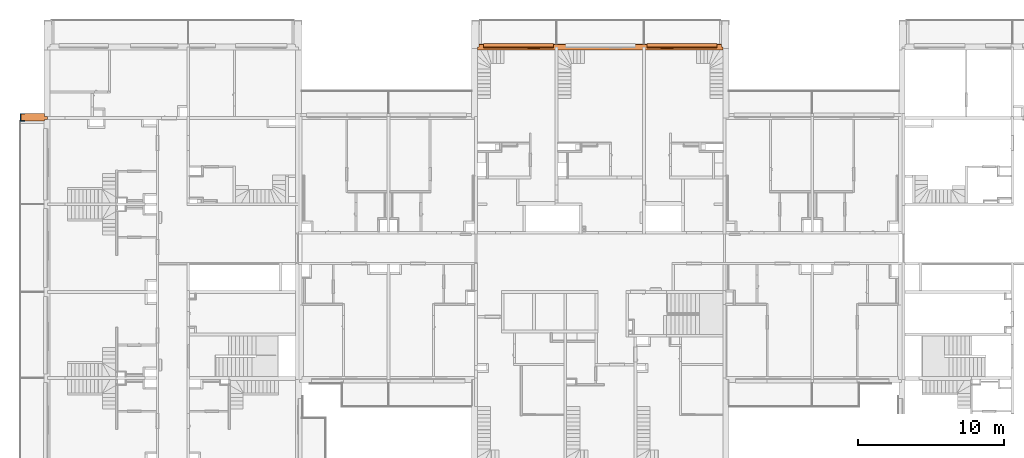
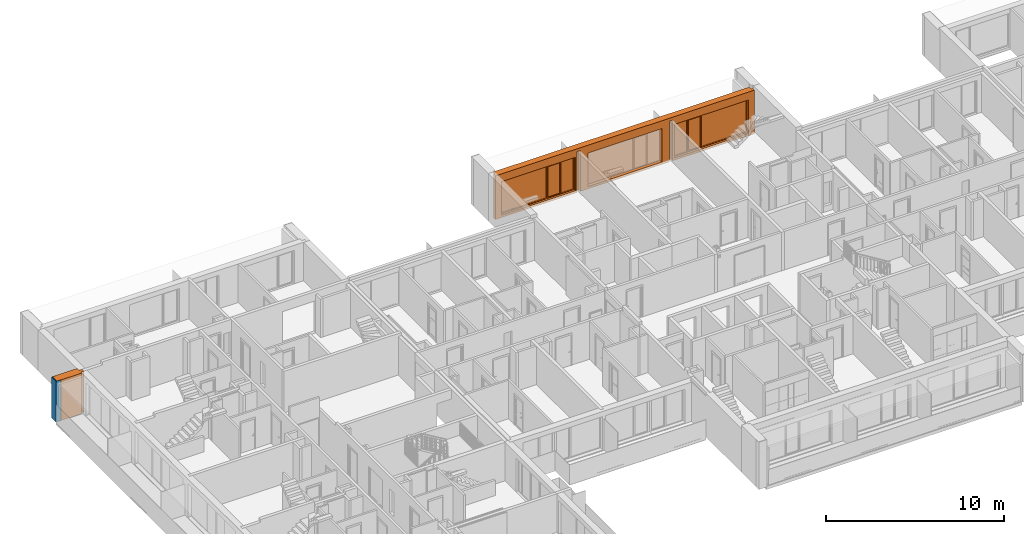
# One storey, part 43 of 61: 4 proxies, 1 wall, 4 openings.
"""IFC2X3 building model written with IfcOpenShell, lengths in millimetres."""

import ifcopenshell
import ifcopenshell.guid

model = None  # the IFC model being written
_history = None  # IfcOwnerHistory: only IFC2X3 demands one
_inside = {}  # id of a spatial element -> (the spatial element, [elements in it])
_under = {}  # id of a project, library or spatial element -> (it, [spatial elements below it])
_declared = {}  # id of a project -> (the project, [libraries it declares])
_typed = {}  # id of a type object -> (the type object, [elements of that type])
_made_of = {}  # id of a material, layer set ... -> (it, [elements and type objects made of it])


def new_model(schema):
    """Start an empty IFC model of exactly this schema.

    Asked for "IFC4X3", IfcOpenShell would pick the latest addendum, in which some entities
    have other attributes; the version numbers below select the first issue.
    IFC2X3 requires an IfcOwnerHistory on every rooted entity: one is made here for all.
    """
    global model, _history
    if schema == "IFC4X3":
        model = ifcopenshell.file(schema_version=(4, 3, 0, 0))
    else:
        model = ifcopenshell.file(schema=schema)
    _inside.clear()
    _under.clear()
    _declared.clear()
    _typed.clear()
    _made_of.clear()
    _history = None
    if model.schema == "IFC2X3":
        org = make("IfcOrganization", Name="unknown")
        user = make(
            "IfcPersonAndOrganization",
            ThePerson=make("IfcPerson", FamilyName="unknown"),
            TheOrganization=org,
        )
        app = make(
            "IfcApplication",
            ApplicationDeveloper=org,
            Version="unknown",
            ApplicationFullName="unknown",
            ApplicationIdentifier="unknown",
        )
        _history = make(
            "IfcOwnerHistory",
            OwningUser=user,
            OwningApplication=app,
            ChangeAction="ADDED",
            CreationDate=0,
        )
    return model


def make(cls, **values):
    """One entity of the class cls with the attributes given. An attribute that is None is left unset."""
    return model.create_entity(
        cls, **{name: value for name, value in values.items() if value is not None}
    )


def entity(cls, *values):
    """Any entity or typed value of the class cls, its attributes in the order of the schema. None: left unset."""
    e = model.create_entity(cls)
    for i, value in enumerate(values):
        if value is not None:
            e[i] = value
    return e


def rooted(cls, **values):
    """An entity with a GlobalId (a new one), such as an element, a storey or a relation."""
    return make(cls, GlobalId=ifcopenshell.guid.new(), OwnerHistory=_history, **values)


def si_unit(unit_type, name, prefix=None):
    """IfcSIUnit, for example si_unit("LENGTHUNIT", "METRE", prefix="MILLI")."""
    return make("IfcSIUnit", UnitType=unit_type, Prefix=prefix, Name=name)


def converted_unit(unit_type, name, factor, base, dimensions=None, offset=None):
    """IfcConversionBasedUnit, such as the inch: factor (a typed value) times the base unit."""
    return make(
        "IfcConversionBasedUnit"
        if offset is None
        else "IfcConversionBasedUnitWithOffset",
        ConversionOffset=offset,
        Dimensions=None
        if dimensions is None
        else entity("IfcDimensionalExponents", *dimensions),
        UnitType=unit_type,
        Name=name,
        ConversionFactor=make(
            "IfcMeasureWithUnit", ValueComponent=factor, UnitComponent=base
        ),
    )


def derived_unit(unit_type, elements):
    """IfcDerivedUnit: a product of units, each with its exponent."""
    return make(
        "IfcDerivedUnit",
        Elements=[
            make("IfcDerivedUnitElement", Unit=unit, Exponent=power)
            for unit, power in elements
        ],
        UnitType=unit_type,
    )


def money_unit(currency):
    """IfcMonetaryUnit."""
    return make("IfcMonetaryUnit", Currency=currency)


def assignment(units):
    """IfcUnitAssignment: the units of a project."""
    return None if units is None else make("IfcUnitAssignment", Units=units)


def point(xyz):
    """IfcCartesianPoint."""
    return None if xyz is None else make("IfcCartesianPoint", Coordinates=xyz)


def direction(xyz):
    """IfcDirection."""
    return None if xyz is None else make("IfcDirection", DirectionRatios=xyz)


def frame(location, z_axis=None, x_axis=None):
    """IfcAxis2Placement3D, a coordinate frame: its origin and axes. An axis left out is left unset."""
    return make(
        "IfcAxis2Placement3D",
        Location=point(location),
        Axis=direction(z_axis),
        RefDirection=direction(x_axis),
    )


def frame_2d(location, x_axis=None):
    """IfcAxis2Placement2D, a coordinate frame in the plane: its origin and x axis."""
    return make(
        "IfcAxis2Placement2D", Location=point(location), RefDirection=direction(x_axis)
    )


def origin_with_axes():
    """The frame at (0, 0, 0) with the z axis (0, 0, 1) and the x axis (1, 0, 0) written out."""
    return frame((0.0, 0.0, 0.0), z_axis=(0.0, 0.0, 1.0), x_axis=(1.0, 0.0, 0.0))


def origin_2d_with_axis():
    """The frame at (0, 0) in the plane with the x axis (1, 0) written out."""
    return frame_2d((0.0, 0.0), x_axis=(1.0, 0.0))


def place(relative_to, where):
    """IfcLocalPlacement: puts the frame where relative to a parent placement (None: the world)."""
    return make(
        "IfcLocalPlacement", PlacementRelTo=relative_to, RelativePlacement=where
    )


def context(
    kind, dimensions, precision=None, world=None, true_north=None, identifier=None
):
    """IfcGeometricRepresentationContext, for example the 3D "Model" context."""
    return make(
        "IfcGeometricRepresentationContext",
        ContextIdentifier=identifier,
        ContextType=kind,
        CoordinateSpaceDimension=dimensions,
        Precision=precision,
        WorldCoordinateSystem=world,
        TrueNorth=true_north,
    )


def subcontext(parent, identifier, kind, view, scale=None):
    """IfcGeometricRepresentationSubContext, for example "Body" below "Model"."""
    return make(
        "IfcGeometricRepresentationSubContext",
        ContextIdentifier=identifier,
        ContextType=kind,
        ParentContext=parent,
        TargetScale=scale,
        TargetView=view,
    )


def project(units=None, contexts=None):
    """IfcProject with its units and contexts."""
    return rooted(
        "IfcProject",
        Name="project",
        RepresentationContexts=contexts,
        UnitsInContext=assignment(units),
    )


def spatial(cls, under=None, at=None, **own):
    """A site, building, storey or space (cls), placed at a placement, below another one or the project."""
    s = rooted(cls, ObjectPlacement=at, **own)
    if under is not None:
        _under.setdefault(under.id(), (under, []))[1].append(s)
    return s


def profile(cls, at=None, kind="AREA", **sizes):
    """A parametric profile (cls). Its sizes go by their IFC names, for example OverallWidth=200.0."""
    return make(cls, ProfileType=kind, Position=at, **sizes)


def rectangle(**sizes):
    """IfcRectangleProfileDef."""
    return profile("IfcRectangleProfileDef", **sizes)


def extrude(swept, where, along, depth):
    """IfcExtrudedAreaSolid: the profile swept, set in the frame where, extruded along a direction by depth."""
    return make(
        "IfcExtrudedAreaSolid",
        SweptArea=swept,
        Position=where,
        ExtrudedDirection=direction(along),
        Depth=depth,
    )


def faces_of(points, faces, orient=None, outer=None):
    """IfcFace entities. A face is a list of loops; a loop is a list of indices into points, from 0.

    orient and outer hold one flag for each loop. By default every Orientation is true, the
    first loop of a face is its IfcFaceOuterBound and the others are IfcFaceBound.
    """
    made = []
    for i, loops in enumerate(faces):
        bounds = []
        for j, loop in enumerate(loops):
            is_outer = j == 0 if outer is None else outer[i][j]
            bounds.append(
                make(
                    "IfcFaceOuterBound" if is_outer else "IfcFaceBound",
                    Bound=make("IfcPolyLoop", Polygon=[points[k] for k in loop]),
                    Orientation=True if orient is None else orient[i][j],
                )
            )
        made.append(make("IfcFace", Bounds=bounds))
    return made


def open_shell(faces, orient=None, outer=None):
    """The faces of one IfcOpenShell. surface_model builds it on its shared points."""
    return ("IfcOpenShell", faces, orient, outer)


def faceted_brep(points, faces, orient=None, outer=None, voids=None):
    """IfcFacetedBrep: a solid bounded by flat faces; with voids (closed shells), ...WithVoids."""
    shared = [point(p) for p in points]
    hull = make("IfcClosedShell", CfsFaces=faces_of(shared, faces, orient, outer))
    if voids is None:
        return make("IfcFacetedBrep", Outer=hull)
    return make(
        "IfcFacetedBrepWithVoids",
        Outer=hull,
        Voids=[
            make(cls, CfsFaces=faces_of(shared, fs, o, b)) for cls, fs, o, b in voids
        ],
    )


def surface_model(cls, points, shells):
    """IfcFaceBasedSurfaceModel or IfcShellBasedSurfaceModel (cls): surfaces that need not close."""
    shared = [point(p) for p in points]
    made = [make(c, CfsFaces=faces_of(shared, fs, o, b)) for c, fs, o, b in shells]
    if cls == "IfcFaceBasedSurfaceModel":
        return make(cls, FbsmFaces=made)
    return make(cls, SbsmBoundary=made)


def shape(context_of_items, identifier, shape_type, items):
    """IfcShapeRepresentation: the items that make up one representation, for example the "Body"."""
    return make(
        "IfcShapeRepresentation",
        ContextOfItems=context_of_items,
        RepresentationIdentifier=identifier,
        RepresentationType=shape_type,
        Items=items,
    )


def source(mapping_origin, context_of_items, identifier, shape_type, items):
    """IfcRepresentationMap: a shape defined once, which mapped items show again and again."""
    return make(
        "IfcRepresentationMap",
        MappingOrigin=mapping_origin,
        MappedRepresentation=shape(context_of_items, identifier, shape_type, items),
    )


def transform(
    local_origin,
    x_axis=None,
    y_axis=None,
    z_axis=None,
    scale=None,
    scale2=None,
    scale3=None,
    uniform=True,
):
    """IfcCartesianTransformationOperator3D, or its non-uniform kind. x_axis, y_axis, z_axis: its Axis1, 2, 3."""
    if uniform:
        return make(
            "IfcCartesianTransformationOperator3D",
            Axis1=direction(x_axis),
            Axis2=direction(y_axis),
            LocalOrigin=point(local_origin),
            Scale=scale,
            Axis3=direction(z_axis),
        )
    return make(
        "IfcCartesianTransformationOperator3DnonUniform",
        Axis1=direction(x_axis),
        Axis2=direction(y_axis),
        LocalOrigin=point(local_origin),
        Scale=scale,
        Axis3=direction(z_axis),
        Scale2=scale2,
        Scale3=scale3,
    )


def mapped(mapping_source, mapping_target):
    """IfcMappedItem: shows the shape of a source again, moved by a transform."""
    return make(
        "IfcMappedItem", MappingSource=mapping_source, MappingTarget=mapping_target
    )


def material(Name=None, Category=None):
    """IfcMaterial."""
    return make("IfcMaterial", Name=Name, Category=Category)


def material_list(materials):
    """IfcMaterialList."""
    return make("IfcMaterialList", Materials=materials)


def made_of(thing, what):
    """Note that an element or type object is made of a material, layer set ...; save() writes the relation."""
    if what is not None:
        _made_of.setdefault(what.id(), (what, []))[1].append(thing)
    return thing


def type_object(cls, material=None, **own):
    """A type object (cls), such as IfcWallType, which elements share."""
    return made_of(rooted(cls, **own), material)


def element(
    cls,
    number,
    at=None,
    inside=None,
    cuts=None,
    type_object=None,
    material=None,
    context=None,
    identifier="Body",
    shape_type=None,
    held_by="IfcProductDefinitionShape",
    body=None,
    shapes=None,
    **own,
):
    """One element of the class cls, such as IfcWall. Its Tag is "e" and its number.

    at: its placement. inside: the storey or other place that contains it. cuts: it is an
    opening in that element (IfcRelVoidsElement). A single representation is given by context,
    identifier, shape_type and body (its items); several are given by shapes. held_by: the class
    of the entity that holds the representations. save() writes the other relations.
    """
    e = rooted(cls, Tag="e%d" % number, ObjectPlacement=at, **own)
    if body is not None:
        shapes = [shape(context, identifier, shape_type, body)]
    if shapes is not None:
        e.Representation = make(held_by, Representations=shapes)
    if inside is not None:
        _inside.setdefault(inside.id(), (inside, []))[1].append(e)
    if cuts is not None:
        rooted(
            "IfcRelVoidsElement", RelatingBuildingElement=cuts, RelatedOpeningElement=e
        )
    if type_object is not None:
        _typed.setdefault(type_object.id(), (type_object, []))[1].append(e)
    return made_of(e, material)


def fill(opening, filler):
    """IfcRelFillsElement: the door or window that sits in an opening."""
    return rooted(
        "IfcRelFillsElement",
        RelatingOpeningElement=opening,
        RelatedBuildingElement=filler,
    )


def aggregate(whole, parts):
    """IfcRelAggregates: a whole, such as a stair, and the parts it consists of."""
    return rooted("IfcRelAggregates", RelatingObject=whole, RelatedObjects=parts)


def save(model, path):
    """Write the relations noted so far, then the file.

    IfcRelAggregates (storeys below a building ...), IfcRelContainedInSpatialStructure (elements
    in a storey), IfcRelDefinesByType, IfcRelAssociatesMaterial and IfcRelDeclares: one each for
    every whole, place, type object, material and project.
    """
    for whole, parts in _under.values():
        aggregate(whole, parts)
    for where, things in _inside.values():
        rooted(
            "IfcRelContainedInSpatialStructure",
            RelatedElements=things,
            RelatingStructure=where,
        )
    for kind, things in _typed.values():
        rooted("IfcRelDefinesByType", RelatedObjects=things, RelatingType=kind)
    for what, things in _made_of.values():
        rooted("IfcRelAssociatesMaterial", RelatedObjects=things, RelatingMaterial=what)
    for by, libraries in _declared.values():
        rooted("IfcRelDeclares", RelatingContext=by, RelatedDefinitions=libraries)
    model.write(path)


model = new_model("IFC2X3")

# Units and contexts
model_context = context("Model", 3, precision=0.01, world=origin_with_axes(), true_north=direction((0.34421633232, 0.938890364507)))
body_context = subcontext(model_context, "Body", "Model", "MODEL_VIEW")
ifc_project = project(units=[si_unit("LENGTHUNIT", "METRE", prefix="MILLI"), si_unit("AREAUNIT", "SQUARE_METRE"), si_unit("VOLUMEUNIT", "CUBIC_METRE"), converted_unit("PLANEANGLEUNIT", "DEGREE", entity("IfcPlaneAngleMeasure", 0.0174532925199), si_unit("PLANEANGLEUNIT", "RADIAN"), dimensions=[0, 0, 0, 0, 0, 0, 0]), si_unit("SOLIDANGLEUNIT", "STERADIAN"), money_unit("USD"), converted_unit("TIMEUNIT", "Year", entity("IfcTimeMeasure", 31556926.0), si_unit("TIMEUNIT", "SECOND"), dimensions=[0, 0, 1, 0, 0, 0, 0]), si_unit("MASSUNIT", "GRAM", prefix="KILO"), si_unit("THERMODYNAMICTEMPERATUREUNIT", "DEGREE_CELSIUS"), si_unit("LUMINOUSINTENSITYUNIT", "LUMEN"), si_unit("ENERGYUNIT", "JOULE", prefix="MEGA"), derived_unit("THERMALCONDUCTANCEUNIT", [(si_unit("POWERUNIT", "WATT"), 1), (si_unit("LENGTHUNIT", "METRE"), -1), (si_unit("THERMODYNAMICTEMPERATUREUNIT", "KELVIN"), -1)]), derived_unit("SPECIFICHEATCAPACITYUNIT", [(si_unit("ENERGYUNIT", "JOULE"), 1), (si_unit("MASSUNIT", "GRAM", prefix="KILO"), -1), (si_unit("THERMODYNAMICTEMPERATUREUNIT", "KELVIN"), -1)]), derived_unit("MASSDENSITYUNIT", [(si_unit("MASSUNIT", "GRAM", prefix="KILO"), 1), (si_unit("VOLUMEUNIT", "CUBIC_METRE"), -1)])], contexts=[model_context])

# Site, building, storey
site_placement = place(None, origin_with_axes())
site = spatial("IfcSite", under=ifc_project, at=site_placement, Name="USTRONIE MORSKIE", CompositionType="ELEMENT")
building_placement = place(site_placement, origin_with_axes())
building = spatial("IfcBuilding", under=site, at=building_placement, Name="Budynek", CompositionType="ELEMENT")
storey_placement = place(building_placement, frame((0.0, 0.0, 13000.0), z_axis=(0.0, 0.0, 1.0), x_axis=(1.0, 0.0, 0.0)))
storey = spatial("IfcBuildingStorey", under=building, at=storey_placement, Name="PIĘTRO 4", CompositionType="ELEMENT", Elevation=13000.0)

# Proxies, openings
ifc_material_1 = material(Name="Beton konstrukcyjny B25")
ifc_material_2 = material(Name="Wełna ELEW")
ifc_material_3 = material(Name="Tynk zewnętrzny")
ifc_material_list_1 = material_list([ifc_material_1, ifc_material_2, ifc_material_3])
building_element_proxy_type_1 = type_object("IfcBuildingElementProxyType", Name="20+20 410", PredefinedType="NOTDEFINED")
proxy_1_placement = place(storey_placement, frame((396317.920919, 749451.199036, -160.0), z_axis=(0.0, 0.0, 1.0), x_axis=(-1.0, 0.0, 0.0)))
proxy_1 = element("IfcBuildingElementProxy", 1, at=proxy_1_placement, inside=storey, type_object=building_element_proxy_type_1, material=ifc_material_list_1, Name="SZ-01", context=body_context, shape_type="Brep", body=[
    faceted_brep([(5600.0, -100.0, 2800.0), (5600.0, -100.0, 0.0), (11400.0, -100.0, 0.0), (11400.0, -100.0, 2800.0), (11600.0, -100.0, 2800.0), (11600.0, -100.0, 0.0), (16900.0, -100.0, 0.0), (16900.0, -100.0, 2999.99999792), (100.0, -100.0, 2999.99999792), (100.0, -100.0, 0.0), (5400.0, -100.0, 0.0), (5400.0, -100.0, 2800.0), (5600.0, 100.0, 2800.0), (5600.0, 100.0, 0.0), (11400.0, 100.0, 0.0), (11400.0, 100.0, 2800.0), (11600.0, 100.0, 2800.0), (11600.0, 100.0, 0.0), (16900.0, 100.0, 0.0), (16900.0, 0.0, 0.0), (16900.0, 0.0, 2999.99999792), (100.0, 100.0, 2999.99999792), (100.0, 0.0, 2999.99999792), (16900.0, 100.0, 2999.99999792), (100.0, 0.0, 0.0), (5400.0, 100.0, 0.0), (100.0, 100.0, 0.0), (5400.0, 100.0, 2800.0)], [[[0, 1, 2, 3, 4, 5, 6, 7, 8, 9, 10, 11]], [[1, 0, 12, 13]], [[1, 13, 14, 2]], [[3, 2, 14, 15]], [[4, 3, 15, 16]], [[5, 4, 16, 17]], [[5, 17, 18, 19, 6]], [[20, 7, 6, 19]], [[21, 22, 8, 7, 20, 23]], [[9, 8, 22, 24]], [[25, 10, 9, 24, 26]], [[11, 10, 25, 27]], [[0, 11, 27, 12]], [[27, 25, 26, 21, 23, 18, 17, 16, 15, 14, 13, 12]], [[23, 20, 19, 18]], [[22, 21, 26, 24]]]),
    faceted_brep([(16800.0, -100.0, 2999.99999792), (16800.0, -100.0, 0.0), (200.0, -100.0, 0.0), (200.0, -100.0, 2999.99999792), (16800.0, -300.0, 0.0), (16800.0, -300.0, 2999.99999792), (16790.1328382, -300.0, -5.04920549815e-06), (16790.1328368, -299.846338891, -5.05150943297e-06), (210.13283749, -300.0, -5.05147923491e-06), (200.0, -300.0, 0.0), (200.0, -300.0, 2999.99999792), (210.13283749, -300.0, 9.99999623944), (16790.1328382, -300.0, 9.99999623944), (16790.1328368, -299.846338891, 9.99999623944)], [[[0, 1, 2, 3]], [[4, 1, 0, 5]], [[1, 4, 6, 7, 8, 9, 2]], [[9, 10, 3, 2]], [[5, 0, 3, 10]], [[6, 4, 5, 10, 9, 8, 11, 12]], [[6, 12, 13, 7]], [[7, 13, 11, 8]], [[13, 12, 11]]]),
    faceted_brep([(210.132928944, -310.0, 9.99999623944), (16790.0, -310.0, 9.99999623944), (16790.0, -310.0, 2799.99999792), (210.0, -310.0, 2799.99999792), (210.0, -310.0, 0.0), (210.132928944, -310.0, -4.90153340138e-06), (210.132837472, -299.997970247, 9.99999623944), (16790.0, -299.999991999, 9.99999623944), (16790.0, -299.99775974, 2799.99999792), (210.0, -300.0, 2799.99999792), (210.0, -300.0, 0.0), (210.132837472, -299.997970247, -5.05150943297e-06)], [[[0, 1, 2, 3, 4, 5]], [[1, 0, 6, 7]], [[1, 7, 8, 2]], [[8, 9, 3, 2]], [[4, 3, 9, 10]], [[11, 5, 4, 10]], [[0, 5, 11, 6]], [[6, 11, 10, 9, 8, 7]]]),
])
opening_1_placement = place(proxy_1_placement, frame((14100.0, 0.0, 160.0), z_axis=(0.0, 0.0, 1.0), x_axis=(1.0, 0.0, 0.0)))
opening_1 = element("IfcOpeningElement", 2, at=opening_1_placement, cuts=proxy_1, Name="Wz.06", context=body_context, shape_type="SweptSolid", body=[
    extrude(rectangle(XDim=4800.0, YDim=2300.0, at=origin_2d_with_axis()), frame((0.0, -99.9999999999, 1150.0), z_axis=(0.0, -1.0, 0.0), x_axis=(-1.0, 0.0, 0.0)), (0.0, 0.0, 1.0), 620.0),
    extrude(rectangle(XDim=4800.0, YDim=2300.0, at=origin_2d_with_axis()), frame((0.0, -100.0, 1150.0), z_axis=(0.0, 1.0, 0.0), x_axis=(-1.0, 0.0, 0.0)), (0.0, 0.0, 1.0), 610.0),
])
opening_2_placement = place(proxy_1_placement, frame((8500.0, 0.0, 160.0), z_axis=(0.0, 0.0, 1.0), x_axis=(1.0, 0.0, 0.0)))
element("IfcOpeningElement", 3, at=opening_2_placement, cuts=proxy_1, Name="Wz.06", context=body_context, shape_type="SweptSolid", body=[
    extrude(rectangle(XDim=4800.0, YDim=2300.0, at=origin_2d_with_axis()), frame((0.0, -99.9999999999, 1150.0), z_axis=(0.0, -1.0, 0.0), x_axis=(-1.0, 0.0, 0.0)), (0.0, 0.0, 1.0), 620.0),
    extrude(rectangle(XDim=4800.0, YDim=2300.0, at=origin_2d_with_axis()), frame((0.0, -100.0, 1150.0), z_axis=(0.0, 1.0, 0.0), x_axis=(-1.0, 0.0, 0.0)), (0.0, 0.0, 1.0), 610.0),
])
opening_3_placement = place(proxy_1_placement, frame((2899.99286716, 0.0, 160.0), z_axis=(0.0, 0.0, 1.0), x_axis=(1.0, 0.0, 0.0)))
opening_3 = element("IfcOpeningElement", 4, at=opening_3_placement, cuts=proxy_1, Name="Wz.06", context=body_context, shape_type="SweptSolid", body=[
    extrude(rectangle(XDim=4800.0, YDim=2300.0, at=origin_2d_with_axis()), frame((0.0, -99.9999999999, 1150.0), z_axis=(0.0, 1.0, 0.0), x_axis=(1.0, 0.0, 0.0)), (0.0, 0.0, -1.0), 620.0),
    extrude(rectangle(XDim=4800.0, YDim=2300.0, at=origin_2d_with_axis()), frame((0.0, -100.0, 1150.0), z_axis=(0.0, -1.0, 0.0), x_axis=(1.0, 0.0, 0.0)), (0.0, 0.0, -1.0), 610.0),
])
building_element_proxy_type_2 = type_object("IfcBuildingElementProxyType", Name="Okno potrójne 23", PredefinedType="NOTDEFINED")
shared_shape_1 = source(origin_with_axes(), body_context, "Body", "SurfaceModel", [
    faceted_brep([(2400.0, -65.0, 5.0), (2400.0, -65.0, 30.0), (2400.0, -275.0, 18.9943663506), (2400.0, -275.0, 5.0), (-2400.0, -65.0, 5.0), (-2400.0, -65.0, 30.0), (-2400.0, -275.0, 18.9943663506), (-2400.0, -305.0, 17.4221329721), (2400.0, -305.0, 17.4221329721), (2400.0, -305.0, 5.0), (-2400.0, -305.0, 5.0), (-2400.0, -275.0, 5.0)], [[[0, 1, 2, 3]], [[4, 5, 1, 0]], [[1, 5, 6, 7, 8, 2]], [[3, 2, 8, 9]], [[0, 3, 9, 10, 11, 4]], [[11, 6, 5, 4]], [[10, 7, 6, 11]], [[9, 8, 7, 10]]]),
    faceted_brep([(2400.0, -65.0, 0.0), (2400.0, -65.0, 5.0), (2400.0, -275.0, 5.0), (2400.0, -275.0, 0.0), (-2400.0, -65.0, 0.0), (-2400.0, -65.0, 5.0), (-2400.0, -275.0, 5.0), (-2400.0, -275.0, 0.0)], [[[0, 1, 2, 3]], [[4, 5, 1, 0]], [[1, 5, 6, 2]], [[3, 2, 6, 7]], [[0, 3, 7, 4]], [[7, 6, 5, 4]]]),
    faceted_brep([(-1462.5, -25.0, 2230.0), (-1487.5, -25.0, 2230.0), (-1487.5, 0.0, 2230.0), (-1527.5, 0.0, 2230.0), (-1527.5, -65.0, 2230.0), (-1462.5, -65.0, 2230.0), (-1462.5, -25.0, 70.0), (-1487.5, -25.0, 70.0), (-1487.5, 0.0, 70.0), (-1527.5, 0.0, 70.0), (-1527.5, -65.0, 70.0), (-1462.5, -65.0, 70.0)], [[[0, 1, 2, 3, 4, 5]], [[1, 0, 6, 7]], [[8, 2, 1, 7]], [[2, 8, 9, 3]], [[9, 10, 4, 3]], [[10, 11, 5, 4]], [[6, 0, 5, 11]], [[7, 6, 11, 10, 9, 8]]]),
    faceted_brep([(-602.5, 0.0, 2230.0), (-602.5, -25.0, 2230.0), (-627.5, -25.0, 2230.0), (-627.5, -65.0, 2230.0), (-562.5, -65.0, 2230.0), (-562.5, 0.0, 2230.0), (-602.5, 0.0, 70.0), (-602.5, -25.0, 70.0), (-627.5, -25.0, 70.0), (-627.5, -65.0, 70.0), (-562.5, -65.0, 70.0), (-562.5, 0.0, 70.0)], [[[0, 1, 2, 3, 4, 5]], [[1, 0, 6, 7]], [[8, 2, 1, 7]], [[2, 8, 9, 3]], [[4, 3, 9, 10]], [[5, 4, 10, 11]], [[6, 0, 5, 11]], [[7, 6, 11, 10, 9, 8]]]),
    faceted_brep([(-1462.5, -25.0, 70.0), (-1487.5, -25.0, 70.0), (-1487.5, 0.0, 70.0), (-1527.5, 0.0, 70.0), (-1527.5, -65.0, 70.0), (-1462.5, -65.0, 70.0), (-627.5, -25.0, 70.0), (-602.5, -25.0, 70.0), (-602.5, -25.0, 45.0), (-1487.5, -25.0, 45.0), (-1487.5, 0.0, 45.0), (-602.5, 0.0, 45.0), (-602.5, 0.0, 70.0), (-562.5, 0.0, 70.0), (2330.0, 0.0, 70.0), (2400.0, 0.0, 70.0), (2400.0, 0.0, 0.0), (-2400.0, 0.0, 0.0), (-2400.0, 0.0, 70.0), (-2330.0, 0.0, 70.0), (-2330.0, -65.0, 70.0), (2400.0, -65.0, 70.0), (2330.0, -65.0, 70.0), (-562.5, -65.0, 70.0), (-627.5, -65.0, 70.0), (-2400.0, -65.0, 70.0), (-2400.0, -65.0, 0.0), (2400.0, -65.0, 0.0)], [[[0, 1, 2, 3, 4, 5]], [[1, 0, 6, 7, 8, 9]], [[10, 2, 1, 9]], [[11, 12, 13, 14, 15, 16, 17, 18, 19, 3, 2, 10]], [[19, 20, 4, 3]], [[21, 22, 23, 24, 5, 4, 20, 25, 26, 27]], [[6, 0, 5, 24]], [[7, 6, 24, 23, 13, 12]], [[7, 12, 11, 8]], [[11, 10, 9, 8]], [[13, 23, 22, 14]], [[14, 22, 21, 15]], [[15, 21, 27, 16]], [[16, 27, 26, 17]], [[17, 26, 25, 18]], [[18, 25, 20, 19]]]),
    faceted_brep([(-602.5, 0.0, 2230.0), (-602.5, 0.0, 2255.0), (-1487.5, 0.0, 2255.0), (-1487.5, 0.0, 2230.0), (-1527.5, 0.0, 2230.0), (-2330.0, 0.0, 2230.0), (-2400.0, 0.0, 2230.0), (-2400.0, 0.0, 2300.0), (2400.0, 0.0, 2300.0), (2400.0, 0.0, 2230.0), (2330.0, 0.0, 2230.0), (-562.5, 0.0, 2230.0), (-602.5, -25.0, 2230.0), (-602.5, -25.0, 2255.0), (-1487.5, -25.0, 2255.0), (-1487.5, -25.0, 2230.0), (-1462.5, -25.0, 2230.0), (-1462.5, -65.0, 2230.0), (-1527.5, -65.0, 2230.0), (-2330.0, -65.0, 2230.0), (-2400.0, -65.0, 2230.0), (-2400.0, -65.0, 2300.0), (2400.0, -65.0, 2300.0), (2400.0, -65.0, 2230.0), (2330.0, -65.0, 2230.0), (-562.5, -65.0, 2230.0), (-627.5, -65.0, 2230.0), (-627.5, -25.0, 2230.0)], [[[0, 1, 2, 3, 4, 5, 6, 7, 8, 9, 10, 11]], [[1, 0, 12, 13]], [[2, 1, 13, 14]], [[3, 2, 14, 15]], [[15, 16, 17, 18, 4, 3]], [[4, 18, 19, 5]], [[5, 19, 20, 6]], [[6, 20, 21, 7]], [[7, 21, 22, 8]], [[8, 22, 23, 9]], [[9, 23, 24, 10]], [[10, 24, 25, 11]], [[12, 0, 11, 25, 26, 27]], [[16, 15, 14, 13, 12, 27]], [[16, 27, 26, 17]], [[26, 25, 24, 23, 22, 21, 20, 19, 18, 17]]]),
    faceted_brep([(2330.0, -65.0, 2230.0), (2400.0, -65.0, 2230.0), (2400.0, 0.0, 2230.0), (2330.0, 0.0, 2230.0), (2330.0, -65.0, 70.0), (2400.0, -65.0, 70.0), (2400.0, 0.0, 70.0), (2330.0, 0.0, 70.0)], [[[0, 1, 2, 3]], [[0, 4, 5, 1]], [[1, 5, 6, 2]], [[3, 2, 6, 7]], [[4, 0, 3, 7]], [[5, 4, 7, 6]]]),
    faceted_brep([(-2330.0, -65.0, 70.0), (-2400.0, -65.0, 70.0), (-2400.0, 0.0, 70.0), (-2330.0, 0.0, 70.0), (-2330.0, -65.0, 2230.0), (-2400.0, -65.0, 2230.0), (-2400.0, 0.0, 2230.0), (-2330.0, 0.0, 2230.0)], [[[0, 1, 2, 3]], [[0, 4, 5, 1]], [[1, 5, 6, 2]], [[3, 2, 6, 7]], [[4, 0, 3, 7]], [[5, 4, 7, 6]]]),
    surface_model("IfcShellBasedSurfaceModel", [(2330.0, -35.0, 70.0), (2330.0, -35.0, 2230.0), (-562.5, -35.0, 2230.0), (-562.5, -35.0, 70.0)], [open_shell([[[0, 1, 2, 3]]])]),
    surface_model("IfcShellBasedSurfaceModel", [(2330.0, -15.0, 70.0), (-562.5, -15.0, 70.0), (-562.5, -15.0, 2230.0), (2330.0, -15.0, 2230.0)], [open_shell([[[0, 1, 2, 3]]])]),
    faceted_brep([(-667.5, -25.0, 2190.0), (-602.5, -25.0, 2190.0), (-602.5, 40.0, 2190.0), (-667.5, 40.0, 2190.0), (-667.5, -25.0, 110.0), (-602.5, -25.0, 110.0), (-602.5, 40.0, 110.0), (-667.5, 40.0, 110.0)], [[[0, 1, 2, 3]], [[0, 4, 5, 1]], [[1, 5, 6, 2]], [[3, 2, 6, 7]], [[4, 0, 3, 7]], [[5, 4, 7, 6]]]),
    faceted_brep([(-1422.5, -25.0, 110.0), (-1487.5, -25.0, 110.0), (-1487.5, 40.0, 110.0), (-1422.5, 40.0, 110.0), (-1422.5, -25.0, 2190.0), (-1487.5, -25.0, 2190.0), (-1487.5, 40.0, 2190.0), (-1422.5, 40.0, 2190.0)], [[[0, 1, 2, 3]], [[0, 4, 5, 1]], [[1, 5, 6, 2]], [[3, 2, 6, 7]], [[4, 0, 3, 7]], [[5, 4, 7, 6]]]),
    faceted_brep([(-1487.5, -25.0, 45.0), (-1487.5, -25.0, 110.0), (-1487.5, 40.0, 110.0), (-1487.5, 40.0, 45.0), (-602.5, -25.0, 45.0), (-602.5, -25.0, 110.0), (-667.5, -25.0, 110.0), (-1422.5, -25.0, 110.0), (-1422.5, 40.0, 110.0), (-667.5, 40.0, 110.0), (-602.5, 40.0, 110.0), (-602.5, 40.0, 45.0)], [[[0, 1, 2, 3]], [[0, 4, 5, 6, 7, 1]], [[1, 7, 8, 2]], [[3, 2, 8, 9, 10, 11]], [[4, 0, 3, 11]], [[5, 4, 11, 10]], [[6, 5, 10, 9]], [[7, 6, 9, 8]]]),
    faceted_brep([(-602.5, -25.0, 2255.0), (-602.5, -25.0, 2190.0), (-602.5, 40.0, 2190.0), (-602.5, 40.0, 2255.0), (-1487.5, -25.0, 2255.0), (-1487.5, -25.0, 2190.0), (-1422.5, -25.0, 2190.0), (-667.5, -25.0, 2190.0), (-667.5, 40.0, 2190.0), (-1422.5, 40.0, 2190.0), (-1487.5, 40.0, 2190.0), (-1487.5, 40.0, 2255.0)], [[[0, 1, 2, 3]], [[0, 4, 5, 6, 7, 1]], [[1, 7, 8, 2]], [[3, 2, 8, 9, 10, 11]], [[4, 0, 3, 11]], [[5, 4, 11, 10]], [[6, 5, 10, 9]], [[7, 6, 9, 8]]]),
    surface_model("IfcShellBasedSurfaceModel", [(-667.5, -2.5, 110.0), (-667.5, -2.5, 2190.0), (-1422.5, -2.5, 2190.0), (-1422.5, -2.5, 110.0)], [open_shell([[[0, 1, 2, 3]]])]),
    surface_model("IfcShellBasedSurfaceModel", [(-667.5, 17.5, 110.0), (-1422.5, 17.5, 110.0), (-1422.5, 17.5, 2190.0), (-667.5, 17.5, 2190.0)], [open_shell([[[0, 1, 2, 3]]])]),
    surface_model("IfcShellBasedSurfaceModel", [(-1527.5, -35.0, 70.0), (-1527.5, -35.0, 2230.0), (-2330.0, -35.0, 2230.0), (-2330.0, -35.0, 70.0)], [open_shell([[[0, 1, 2, 3]]])]),
    surface_model("IfcShellBasedSurfaceModel", [(-1527.5, -15.0, 70.0), (-2330.0, -15.0, 70.0), (-2330.0, -15.0, 2230.0), (-1527.5, -15.0, 2230.0)], [open_shell([[[0, 1, 2, 3]]])]),
])
proxy_2_placement = place(opening_1_placement, frame((-2400.0, 0.0, 0.0), z_axis=(0.0, 0.0, 1.0), x_axis=(1.0, 0.0, 0.0)))
proxy_2 = element("IfcBuildingElementProxy", 5, at=proxy_2_placement, inside=storey, type_object=building_element_proxy_type_2, Name="Wz.06", context=body_context, shape_type="MappedRepresentation", body=[
    mapped(shared_shape_1, transform((2400.0, -35.0, 0.0))),
])
fill(opening_1, proxy_2)
shared_shape_2 = source(origin_with_axes(), body_context, "Body", "SurfaceModel", [
    faceted_brep([(-2400.0, -65.0, 5.0), (-2400.0, -275.0, 5.0), (-2400.0, -275.0, 18.9943663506), (-2400.0, -65.0, 30.0), (2400.0, -65.0, 5.0), (2400.0, -275.0, 5.0), (2400.0, -305.0, 5.0), (-2400.0, -305.0, 5.0), (-2400.0, -305.0, 17.4221329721), (2400.0, -305.0, 17.4221329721), (2400.0, -275.0, 18.9943663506), (2400.0, -65.0, 30.0)], [[[0, 1, 2, 3]], [[0, 4, 5, 6, 7, 1]], [[1, 7, 8, 2]], [[3, 2, 8, 9, 10, 11]], [[4, 0, 3, 11]], [[5, 4, 11, 10]], [[6, 5, 10, 9]], [[7, 6, 9, 8]]]),
    faceted_brep([(-2400.0, -65.0, 0.0), (-2400.0, -275.0, 0.0), (-2400.0, -275.0, 5.0), (-2400.0, -65.0, 5.0), (2400.0, -65.0, 0.0), (2400.0, -275.0, 0.0), (2400.0, -275.0, 5.0), (2400.0, -65.0, 5.0)], [[[0, 1, 2, 3]], [[0, 4, 5, 1]], [[1, 5, 6, 2]], [[3, 2, 6, 7]], [[4, 0, 3, 7]], [[5, 4, 7, 6]]]),
    faceted_brep([(1462.5, -25.0, 2230.0), (1462.5, -65.0, 2230.0), (1527.5, -65.0, 2230.0), (1527.5, 0.0, 2230.0), (1487.5, 0.0, 2230.0), (1487.5, -25.0, 2230.0), (1462.5, -25.0, 70.0), (1462.5, -65.0, 70.0), (1527.5, -65.0, 70.0), (1527.5, 0.0, 70.0), (1487.5, 0.0, 70.0), (1487.5, -25.0, 70.0)], [[[0, 1, 2, 3, 4, 5]], [[6, 7, 1, 0]], [[8, 2, 1, 7]], [[9, 3, 2, 8]], [[4, 3, 9, 10]], [[10, 11, 5, 4]], [[5, 11, 6, 0]], [[11, 10, 9, 8, 7, 6]]]),
    faceted_brep([(602.5, 0.0, 2230.0), (562.5, 0.0, 2230.0), (562.5, -65.0, 2230.0), (627.5, -65.0, 2230.0), (627.5, -25.0, 2230.0), (602.5, -25.0, 2230.0), (602.5, 0.0, 70.0), (562.5, 0.0, 70.0), (562.5, -65.0, 70.0), (627.5, -65.0, 70.0), (627.5, -25.0, 70.0), (602.5, -25.0, 70.0)], [[[0, 1, 2, 3, 4, 5]], [[6, 7, 1, 0]], [[1, 7, 8, 2]], [[2, 8, 9, 3]], [[4, 3, 9, 10]], [[10, 11, 5, 4]], [[5, 11, 6, 0]], [[11, 10, 9, 8, 7, 6]]]),
    faceted_brep([(1462.5, -25.0, 70.0), (1462.5, -65.0, 70.0), (1527.5, -65.0, 70.0), (1527.5, 0.0, 70.0), (1487.5, 0.0, 70.0), (1487.5, -25.0, 70.0), (627.5, -25.0, 70.0), (627.5, -65.0, 70.0), (-2400.0, -65.0, 70.0), (-2400.0, -65.0, 0.0), (2400.0, -65.0, 0.0), (2400.0, -65.0, 70.0), (2330.0, -65.0, 70.0), (562.5, -65.0, 70.0), (-2330.0, -65.0, 70.0), (2330.0, 0.0, 70.0), (602.5, 0.0, 45.0), (1487.5, 0.0, 45.0), (2400.0, 0.0, 70.0), (2400.0, 0.0, 0.0), (-2400.0, 0.0, 0.0), (-2400.0, 0.0, 70.0), (-2330.0, 0.0, 70.0), (562.5, 0.0, 70.0), (602.5, 0.0, 70.0), (1487.5, -25.0, 45.0), (602.5, -25.0, 45.0), (602.5, -25.0, 70.0)], [[[0, 1, 2, 3, 4, 5]], [[6, 7, 1, 0]], [[8, 9, 10, 11, 12, 2, 1, 7, 13, 14]], [[15, 3, 2, 12]], [[16, 17, 4, 3, 15, 18, 19, 20, 21, 22, 23, 24]], [[17, 25, 5, 4]], [[5, 25, 26, 27, 6, 0]], [[27, 24, 23, 13, 7, 6]], [[21, 20, 9, 8]], [[20, 19, 10, 9]], [[19, 18, 11, 10]], [[18, 15, 12, 11]], [[23, 22, 14, 13]], [[22, 21, 8, 14]], [[16, 26, 25, 17]], [[27, 26, 16, 24]]]),
    faceted_brep([(602.5, 0.0, 2230.0), (562.5, 0.0, 2230.0), (-2330.0, 0.0, 2230.0), (-2400.0, 0.0, 2230.0), (-2400.0, 0.0, 2300.0), (2400.0, 0.0, 2300.0), (2400.0, 0.0, 2230.0), (2330.0, 0.0, 2230.0), (1527.5, 0.0, 2230.0), (1487.5, 0.0, 2230.0), (1487.5, 0.0, 2255.0), (602.5, 0.0, 2255.0), (602.5, -25.0, 2230.0), (627.5, -25.0, 2230.0), (627.5, -65.0, 2230.0), (562.5, -65.0, 2230.0), (-2330.0, -65.0, 2230.0), (-2400.0, -65.0, 2230.0), (-2400.0, -65.0, 2300.0), (2400.0, -65.0, 2300.0), (2400.0, -65.0, 2230.0), (2330.0, -65.0, 2230.0), (1527.5, -65.0, 2230.0), (1487.5, -25.0, 2230.0), (1462.5, -65.0, 2230.0), (1462.5, -25.0, 2230.0), (1487.5, -25.0, 2255.0), (602.5, -25.0, 2255.0)], [[[0, 1, 2, 3, 4, 5, 6, 7, 8, 9, 10, 11]], [[12, 13, 14, 15, 1, 0]], [[2, 1, 15, 16]], [[3, 2, 16, 17]], [[4, 3, 17, 18]], [[5, 4, 18, 19]], [[6, 5, 19, 20]], [[7, 6, 20, 21]], [[8, 7, 21, 22]], [[23, 9, 8, 22, 24, 25]], [[9, 23, 26, 10]], [[10, 26, 27, 11]], [[11, 27, 12, 0]], [[25, 13, 12, 27, 26, 23]], [[25, 24, 14, 13]], [[14, 24, 22, 21, 20, 19, 18, 17, 16, 15]]]),
    faceted_brep([(-2330.0, -65.0, 2230.0), (-2330.0, 0.0, 2230.0), (-2400.0, 0.0, 2230.0), (-2400.0, -65.0, 2230.0), (-2330.0, -65.0, 70.0), (-2330.0, 0.0, 70.0), (-2400.0, 0.0, 70.0), (-2400.0, -65.0, 70.0)], [[[0, 1, 2, 3]], [[4, 5, 1, 0]], [[1, 5, 6, 2]], [[3, 2, 6, 7]], [[0, 3, 7, 4]], [[7, 6, 5, 4]]]),
    faceted_brep([(2330.0, -65.0, 70.0), (2330.0, 0.0, 70.0), (2400.0, 0.0, 70.0), (2400.0, -65.0, 70.0), (2330.0, -65.0, 2230.0), (2330.0, 0.0, 2230.0), (2400.0, 0.0, 2230.0), (2400.0, -65.0, 2230.0)], [[[0, 1, 2, 3]], [[4, 5, 1, 0]], [[1, 5, 6, 2]], [[3, 2, 6, 7]], [[0, 3, 7, 4]], [[7, 6, 5, 4]]]),
    surface_model("IfcShellBasedSurfaceModel", [(-2330.0, -35.0, 70.0), (562.5, -35.0, 70.0), (562.5, -35.0, 2230.0), (-2330.0, -35.0, 2230.0)], [open_shell([[[0, 1, 2, 3]]])]),
    surface_model("IfcShellBasedSurfaceModel", [(-2330.0, -15.0, 70.0), (-2330.0, -15.0, 2230.0), (562.5, -15.0, 2230.0), (562.5, -15.0, 70.0)], [open_shell([[[0, 1, 2, 3]]])]),
    faceted_brep([(667.5, -25.0, 2190.0), (667.5, 40.0, 2190.0), (602.5, 40.0, 2190.0), (602.5, -25.0, 2190.0), (667.5, -25.0, 110.0), (667.5, 40.0, 110.0), (602.5, 40.0, 110.0), (602.5, -25.0, 110.0)], [[[0, 1, 2, 3]], [[4, 5, 1, 0]], [[1, 5, 6, 2]], [[3, 2, 6, 7]], [[0, 3, 7, 4]], [[7, 6, 5, 4]]]),
    faceted_brep([(1422.5, -25.0, 110.0), (1422.5, 40.0, 110.0), (1487.5, 40.0, 110.0), (1487.5, -25.0, 110.0), (1422.5, -25.0, 2190.0), (1422.5, 40.0, 2190.0), (1487.5, 40.0, 2190.0), (1487.5, -25.0, 2190.0)], [[[0, 1, 2, 3]], [[4, 5, 1, 0]], [[1, 5, 6, 2]], [[3, 2, 6, 7]], [[0, 3, 7, 4]], [[7, 6, 5, 4]]]),
    faceted_brep([(1487.5, -25.0, 45.0), (1487.5, 40.0, 45.0), (1487.5, 40.0, 110.0), (1487.5, -25.0, 110.0), (602.5, -25.0, 45.0), (602.5, 40.0, 45.0), (602.5, 40.0, 110.0), (667.5, 40.0, 110.0), (1422.5, 40.0, 110.0), (1422.5, -25.0, 110.0), (667.5, -25.0, 110.0), (602.5, -25.0, 110.0)], [[[0, 1, 2, 3]], [[4, 5, 1, 0]], [[1, 5, 6, 7, 8, 2]], [[3, 2, 8, 9]], [[0, 3, 9, 10, 11, 4]], [[11, 6, 5, 4]], [[10, 7, 6, 11]], [[9, 8, 7, 10]]]),
    faceted_brep([(602.5, -25.0, 2255.0), (602.5, 40.0, 2255.0), (602.5, 40.0, 2190.0), (602.5, -25.0, 2190.0), (1487.5, -25.0, 2255.0), (1487.5, 40.0, 2255.0), (1487.5, 40.0, 2190.0), (1422.5, 40.0, 2190.0), (667.5, 40.0, 2190.0), (667.5, -25.0, 2190.0), (1422.5, -25.0, 2190.0), (1487.5, -25.0, 2190.0)], [[[0, 1, 2, 3]], [[4, 5, 1, 0]], [[1, 5, 6, 7, 8, 2]], [[3, 2, 8, 9]], [[0, 3, 9, 10, 11, 4]], [[11, 6, 5, 4]], [[10, 7, 6, 11]], [[9, 8, 7, 10]]]),
    surface_model("IfcShellBasedSurfaceModel", [(667.5, -2.5, 110.0), (1422.5, -2.5, 110.0), (1422.5, -2.5, 2190.0), (667.5, -2.5, 2190.0)], [open_shell([[[0, 1, 2, 3]]])]),
    surface_model("IfcShellBasedSurfaceModel", [(667.5, 17.5, 110.0), (667.5, 17.5, 2190.0), (1422.5, 17.5, 2190.0), (1422.5, 17.5, 110.0)], [open_shell([[[0, 1, 2, 3]]])]),
    surface_model("IfcShellBasedSurfaceModel", [(1527.5, -35.0, 70.0), (2330.0, -35.0, 70.0), (2330.0, -35.0, 2230.0), (1527.5, -35.0, 2230.0)], [open_shell([[[0, 1, 2, 3]]])]),
    surface_model("IfcShellBasedSurfaceModel", [(1527.5, -15.0, 70.0), (1527.5, -15.0, 2230.0), (2330.0, -15.0, 2230.0), (2330.0, -15.0, 70.0)], [open_shell([[[0, 1, 2, 3]]])]),
])
proxy_3_placement = place(opening_3_placement, frame((-2400.0, 0.0, 0.0), z_axis=(0.0, 0.0, 1.0), x_axis=(1.0, 0.0, 0.0)))
proxy_3 = element("IfcBuildingElementProxy", 6, at=proxy_3_placement, inside=storey, type_object=building_element_proxy_type_2, Name="Wz.06", context=body_context, shape_type="MappedRepresentation", body=[
    mapped(shared_shape_2, transform((2400.0, -35.0, 0.0))),
])
fill(opening_3, proxy_3)

# Proxy, opening, wall
ifc_material_list_2 = material_list([ifc_material_3, ifc_material_2, ifc_material_1, ifc_material_2, ifc_material_3])
building_element_proxy_type_3 = type_object("IfcBuildingElementProxyType", Name="BALKON bok 01 520", PredefinedType="NOTDEFINED")
proxy_4_placement = place(storey_placement, frame((350067.920919, 744701.199036, -160.0), z_axis=(0.0, 0.0, 1.0), x_axis=(-1.0, 0.0, 0.0)))
proxy_4 = element("IfcBuildingElementProxy", 7, at=proxy_4_placement, inside=storey, type_object=building_element_proxy_type_3, material=ifc_material_list_2, Name="Œciana-006", context=body_context, shape_type="Brep", body=[
    faceted_brep([(310.0, 210.0, 9.99999638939), (310.0, 200.0, 9.99999638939), (310.0, 200.0, 2789.99999792), (310.0, 210.0, 2789.99999792), (1910.03040031, 210.0, 10.0000009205), (1910.03040031, 200.0, 10.0000009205), (1910.03040031, 200.0, 0.0), (1949.99981809, 200.0, 0.0), (1949.99981809, 200.0, 2789.99999792), (1949.99981809, 210.0, 2789.99999792), (1949.99981809, 210.0, 0.0), (1910.03040031, 210.0, 0.0)], [[[0, 1, 2, 3]], [[1, 0, 4, 5]], [[1, 5, 6, 7, 8, 2]], [[9, 3, 2, 8]], [[0, 3, 9, 10, 11, 4]], [[6, 5, 4, 11]], [[6, 11, 10, 7]], [[10, 9, 8, 7]]]),
    faceted_brep([(299.999891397, 200.0, 9.99999623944), (299.999891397, 100.0, 9.99999623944), (300.0, 100.0, 2799.99999792), (300.0, 200.0, 2799.99999792), (1910.03040031, 200.0, 10.0000009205), (1910.03040031, 100.0, 10.0000009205), (1910.03040031, 100.0, 0.0), (1949.99981809, 100.0, 0.0), (1949.99981809, 100.0, 2799.99999799), (1949.99981809, 200.0, 2799.99999799), (1949.99981809, 200.0, 0.0), (1910.03040031, 200.0, 0.0)], [[[0, 1, 2, 3]], [[1, 0, 4, 5]], [[1, 5, 6, 7, 8, 2]], [[9, 3, 2, 8]], [[0, 3, 9, 10, 11, 4]], [[6, 5, 4, 11]], [[6, 11, 10, 7]], [[9, 8, 7, 10]]]),
    faceted_brep([(1949.99981809, 100.0, 2799.99999799), (100.0, 100.0, 2799.99999792), (100.0, -100.0, 2799.99999792), (1949.99981809, -100.0, 2799.99999799), (1949.99981809, 100.0, 0.0), (100.0, 100.0, 0.0), (100.0, -100.0, 0.0), (1949.99981809, -100.0, 0.0)], [[[0, 1, 2, 3]], [[4, 5, 1, 0]], [[5, 6, 2, 1]], [[3, 2, 6, 7]], [[0, 3, 7, 4]], [[7, 6, 5, 4]]]),
    faceted_brep([(300.0, -100.0, 2799.99999792), (300.0, -300.0, 2799.99999792), (1949.99981809, -300.0, 2799.99999799), (1949.99981809, -100.0, 2799.99999799), (300.0, -300.0, 0.0), (300.0, -100.0, 0.0), (1949.99981809, -300.0, 0.0), (1949.99981809, -100.0, 0.0)], [[[0, 1, 2, 3]], [[4, 1, 0, 5]], [[1, 4, 6, 2]], [[2, 6, 7, 3]], [[5, 0, 3, 7]], [[4, 5, 7, 6]]]),
    faceted_brep([(310.0, -300.0, 2799.99999792), (310.0, -310.0, 2799.99999792), (1949.99981809, -310.0, 2799.99999799), (1949.99981809, -300.0, 2799.99999799), (310.0, -310.0, 0.0), (310.0, -300.0, 0.0), (1949.99981809, -310.0, 0.0), (1949.99981809, -300.0, 0.0)], [[[0, 1, 2, 3]], [[4, 1, 0, 5]], [[1, 4, 6, 2]], [[2, 6, 7, 3]], [[5, 0, 3, 7]], [[4, 5, 7, 6]]]),
])
opening_4_placement = place(proxy_4_placement, frame((1949.99981809, 0.0, 0.0), z_axis=(0.0, 0.0, 1.0), x_axis=(1.0, 0.0, 0.0)))
opening_4 = element("IfcOpeningElement", 8, at=opening_4_placement, cuts=proxy_4, Name="ZS1", context=body_context, shape_type="SweptSolid", body=[
    extrude(rectangle(XDim=9.99999999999, YDim=50.0, at=origin_2d_with_axis()), frame((-25.0, 205.0, 0.0), z_axis=(0.0, 0.0, 1.0), x_axis=(0.0, -1.0, 0.0)), (0.0, 0.0, 1.0), 2799.99999799),
    extrude(rectangle(XDim=9.99999999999, YDim=250.0, at=origin_2d_with_axis()), frame((-175.0, 205.0, 0.0), z_axis=(0.0, 0.0, 1.0), x_axis=(0.0, -1.0, 0.0)), (0.0, 0.0, 1.0), 2799.99999799),
    extrude(rectangle(XDim=9.99999999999, YDim=50.0, at=origin_2d_with_axis()), frame((-25.0, -305.0, 0.0), z_axis=(0.0, 0.0, 1.0), x_axis=(0.0, -1.0, 0.0)), (0.0, 0.0, 1.0), 2799.99999799),
    extrude(rectangle(XDim=9.99999999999, YDim=250.0, at=origin_2d_with_axis()), frame((-175.0, -305.0, 0.0), z_axis=(0.0, 0.0, 1.0), x_axis=(0.0, -1.0, 0.0)), (0.0, 0.0, 1.0), 2799.99999799),
    extrude(rectangle(XDim=500.0, YDim=50.0, at=origin_2d_with_axis()), frame((-25.0, -50.0, 0.0), z_axis=(0.0, 0.0, 1.0), x_axis=(0.0, -1.0, 0.0)), (0.0, 0.0, 1.0), 2799.99999799),
])
wall_type = type_object("IfcWallType", Name="Zakończenie zamknięte 23", PredefinedType="NOTDEFINED")
shared_shape_3 = source(origin_with_axes(), body_context, "Body", "Brep", [
    faceted_brep([(0.0, 0.0, 0.0), (0.0, -50.0, 0.0), (0.0, -50.0, 2799.99999799), (0.0, 0.0, 2799.99999799), (10.0, 0.0, 0.0), (10.0, -50.0, 0.0), (10.0, -50.0, 2799.99999799), (10.0, 0.0, 2799.99999799)], [[[0, 1, 2, 3]], [[4, 5, 1, 0]], [[5, 6, 2, 1]], [[6, 7, 3, 2]], [[7, 4, 0, 3]], [[4, 7, 6, 5]]]),
    faceted_brep([(0.0, -50.0, 0.0), (0.0, -300.0, 0.0), (0.0, -300.0, 2799.99999799), (0.0, -50.0, 2799.99999799), (10.0, -50.0, 0.0), (10.0, -300.0, 0.0), (10.0, -300.0, 2799.99999799), (10.0, -50.0, 2799.99999799)], [[[0, 1, 2, 3]], [[4, 5, 1, 0]], [[5, 6, 2, 1]], [[6, 7, 3, 2]], [[7, 4, 0, 3]], [[4, 7, 6, 5]]]),
    faceted_brep([(510.0, 0.0, 0.0), (510.0, -50.0, 0.0), (510.0, -50.0, 2799.99999799), (510.0, 0.0, 2799.99999799), (520.0, 0.0, 0.0), (520.0, -50.0, 0.0), (520.0, -50.0, 2799.99999799), (520.0, 0.0, 2799.99999799)], [[[0, 1, 2, 3]], [[4, 5, 1, 0]], [[5, 6, 2, 1]], [[6, 7, 3, 2]], [[7, 4, 0, 3]], [[4, 7, 6, 5]]]),
    faceted_brep([(510.0, -50.0, 0.0), (510.0, -300.0, 0.0), (510.0, -300.0, 2799.99999799), (510.0, -50.0, 2799.99999799), (520.0, -50.0, 0.0), (520.0, -300.0, 0.0), (520.0, -300.0, 2799.99999799), (520.0, -50.0, 2799.99999799)], [[[0, 1, 2, 3]], [[4, 5, 1, 0]], [[5, 6, 2, 1]], [[6, 7, 3, 2]], [[7, 4, 0, 3]], [[4, 7, 6, 5]]]),
    faceted_brep([(10.0, 0.0, 0.0), (10.0, -50.0, 0.0), (10.0, -50.0, 2799.99999799), (10.0, 0.0, 2799.99999799), (510.0, 0.0, 0.0), (510.0, -50.0, 0.0), (510.0, -50.0, 2799.99999799), (510.0, 0.0, 2799.99999799)], [[[0, 1, 2, 3]], [[4, 5, 1, 0]], [[5, 6, 2, 1]], [[6, 7, 3, 2]], [[7, 4, 0, 3]], [[4, 7, 6, 5]]]),
])
wall_placement = place(opening_4_placement, frame((-150.0, 0.0, 0.0), z_axis=(0.0, 0.0, 1.0), x_axis=(1.0, 0.0, 0.0)))
wall = element("IfcWall", 9, at=wall_placement, inside=storey, type_object=wall_type, material=ifc_material_3, Name="ZS1", context=body_context, shape_type="MappedRepresentation", body=[
    mapped(shared_shape_3, transform((150.0, 210.0, 0.0), x_axis=(0.0, -1.0, 0.0), y_axis=(1.0, 0.0, 0.0), z_axis=(0.0, 0.0, 1.0))),
])
fill(opening_4, wall)

save(model, "model.ifc")
